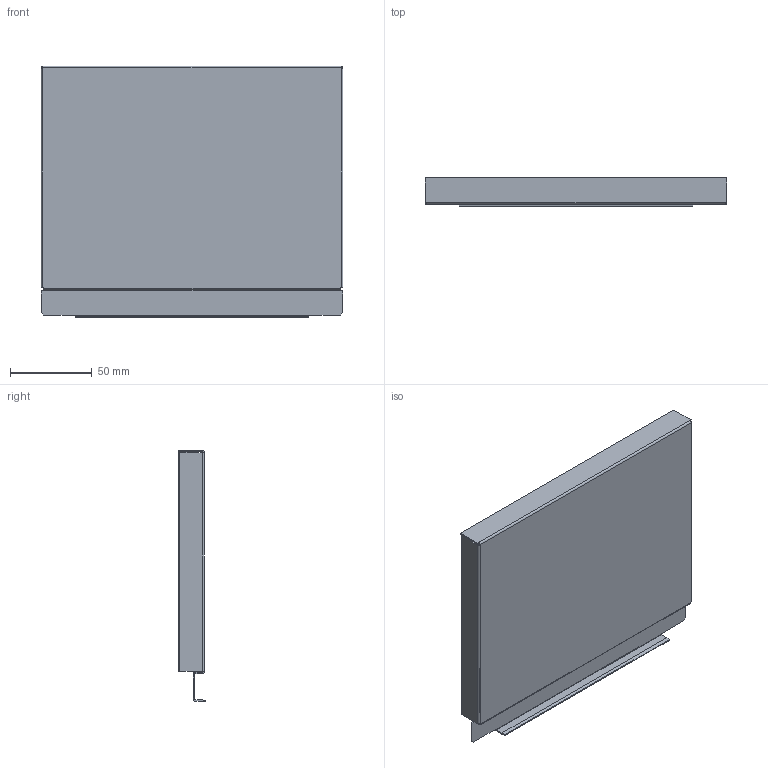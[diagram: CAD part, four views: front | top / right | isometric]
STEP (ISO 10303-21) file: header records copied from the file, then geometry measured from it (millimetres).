
FILE_DESCRIPTION (( 'STEP AP214' ), '1' );
FILE_NAME ('_STRW_H154_KAB_275.step', '2010-08-24T14:40:32', ( 'grass' ), ( '' ), 'SwSTEP 2.0', 'SolidWorks 2009', '' );
FILE_SCHEMA (( 'AUTOMOTIVE_DESIGN' ));
Length unit declared in the file: millimetre
Products named in the file (1): _STRW_H154_KAB_275
Bounding box: 185 x 17 x 154.14 mm (x, y, z)
Volume: 30884 mm3; surface area: 77874.3 mm2
Topology: 1 solids, 1 shells, 76 faces, 214 edges, 140 vertices
Faces by surface type: plane 54, cylinder 22
Entity records: 2472 total; most frequent: CARTESIAN_POINT 431, ORIENTED_EDGE 428, DIRECTION 412, EDGE_CURVE 214, LINE 170, VECTOR 170, VERTEX_POINT 140, AXIS2_PLACEMENT_3D 121
